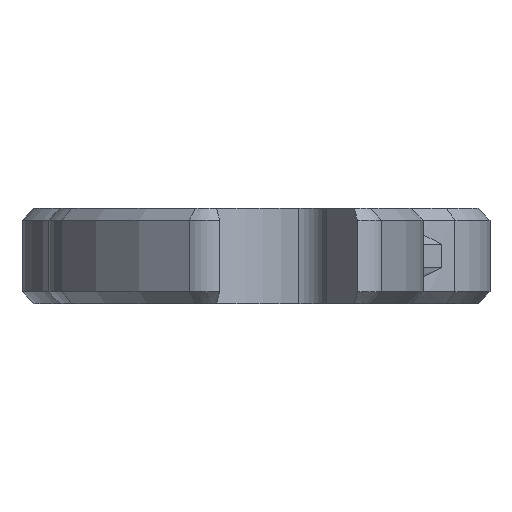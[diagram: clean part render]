
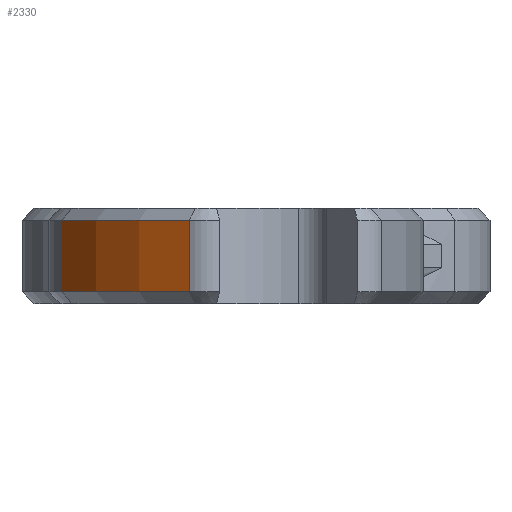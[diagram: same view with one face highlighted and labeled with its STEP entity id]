
A CAD part, left-side view. The second image highlights one B-rep face of the part: STEP entity #2330.
In plain terms, the highlighted cylindrical face has radius 16 mm (diameter 32 mm), a partial arc.
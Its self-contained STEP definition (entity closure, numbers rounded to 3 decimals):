
#59=CYLINDRICAL_SURFACE('',#2479,16.);
#101=CIRCLE('',#2454,16.);
#117=CIRCLE('',#2480,16.);
#314=FACE_OUTER_BOUND('',#460,.T.);
#460=EDGE_LOOP('',(#1891,#1892,#1893,#1894));
#616=LINE('',#4323,#770);
#617=LINE('',#4327,#771);
#770=VECTOR('',#2833,10.);
#771=VECTOR('',#2838,10.);
#1048=VERTEX_POINT('',#4216);
#1050=VERTEX_POINT('',#4222);
#1073=VERTEX_POINT('',#4322);
#1074=VERTEX_POINT('',#4326);
#1331=EDGE_CURVE('',#1048,#1050,#101,.T.);
#1362=EDGE_CURVE('',#1050,#1073,#616,.T.);
#1364=EDGE_CURVE('',#1048,#1074,#617,.T.);
#1365=EDGE_CURVE('',#1073,#1074,#117,.T.);
#1891=ORIENTED_EDGE('',*,*,#1331,.F.);
#1892=ORIENTED_EDGE('',*,*,#1364,.T.);
#1893=ORIENTED_EDGE('',*,*,#1365,.F.);
#1894=ORIENTED_EDGE('',*,*,#1362,.F.);
#2330=ADVANCED_FACE('',(#314),#59,.T.);
#2454=AXIS2_PLACEMENT_3D('',#4226,#2774,#2775);
#2479=AXIS2_PLACEMENT_3D('',#4325,#2836,#2837);
#2480=AXIS2_PLACEMENT_3D('',#4328,#2839,#2840);
#2774=DIRECTION('center_axis',(0.,0.,-1.));
#2775=DIRECTION('ref_axis',(-0.478,0.878,0.));
#2833=DIRECTION('',(0.,0.,1.));
#2836=DIRECTION('center_axis',(0.,0.,1.));
#2837=DIRECTION('ref_axis',(-0.478,0.878,0.));
#2838=DIRECTION('',(0.,0.,1.));
#2839=DIRECTION('center_axis',(0.,0.,1.));
#2840=DIRECTION('ref_axis',(-0.478,0.878,0.));
#4216=CARTESIAN_POINT('',(-51.336,2.368,-1.5));
#4222=CARTESIAN_POINT('',(-45.549,7.737,-1.5));
#4226=CARTESIAN_POINT('Origin',(-37.898,-6.315,-1.5));
#4322=CARTESIAN_POINT('',(-45.549,7.737,1.5));
#4323=CARTESIAN_POINT('',(-45.549,7.737,0.));
#4325=CARTESIAN_POINT('Origin',(-37.898,-6.315,0.));
#4326=CARTESIAN_POINT('',(-51.336,2.368,1.5));
#4327=CARTESIAN_POINT('',(-51.336,2.368,0.));
#4328=CARTESIAN_POINT('Origin',(-37.898,-6.315,1.5));
